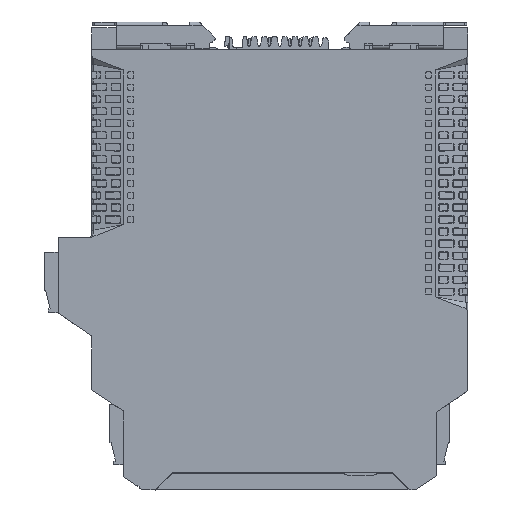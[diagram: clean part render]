
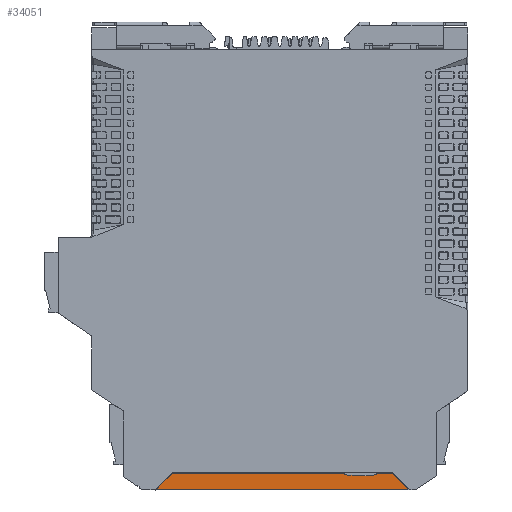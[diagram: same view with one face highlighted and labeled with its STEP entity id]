
A CAD part, front view. The second image highlights one B-rep face of the part: STEP entity #34051.
In plain terms, the highlighted planar face has unit normal (0, -1, -0.009).
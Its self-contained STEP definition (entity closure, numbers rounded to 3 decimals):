
#28938=CARTESIAN_POINT('',(83.309,-0.16,-110.321));
#28939=VERTEX_POINT('',#28938);
#28946=CARTESIAN_POINT('',(87.08,-0.127,-114.092));
#28947=VERTEX_POINT('',#28946);
#28948=CARTESIAN_POINT('',(83.309,-0.16,-110.321));
#28949=DIRECTION('',(0.707,0.006,-0.707));
#28950=VECTOR('',#28949,5.333);
#28951=LINE('',#28948,#28950);
#28952=EDGE_CURVE('',#28939,#28947,#28951,.T.);
#28985=CARTESIAN_POINT('',(79.309,-0.16,-110.321));
#28986=VERTEX_POINT('',#28985);
#28993=CARTESIAN_POINT('',(79.309,-0.16,-110.321));
#28994=DIRECTION('',(1.0,0.0,0.0));
#28995=VECTOR('',#28994,4.);
#28996=LINE('',#28993,#28995);
#28997=EDGE_CURVE('',#28986,#28939,#28996,.T.);
#29009=CARTESIAN_POINT('',(71.309,-0.16,-110.321));
#29010=VERTEX_POINT('',#29009);
#29025=CARTESIAN_POINT('',(28.429,-0.16,-110.321));
#29026=VERTEX_POINT('',#29025);
#29033=CARTESIAN_POINT('',(28.429,-0.16,-110.321));
#29034=DIRECTION('',(1.0,0.0,0.0));
#29035=VECTOR('',#29034,42.88);
#29036=LINE('',#29033,#29035);
#29037=EDGE_CURVE('',#29026,#29010,#29036,.T.);
#29144=CARTESIAN_POINT('',(24.702,-0.127,-114.049));
#29145=VERTEX_POINT('',#29144);
#29152=CARTESIAN_POINT('',(24.702,-0.127,-114.049));
#29153=DIRECTION('',(0.707,-0.006,0.707));
#29154=VECTOR('',#29153,5.272);
#29155=LINE('',#29152,#29154);
#29156=EDGE_CURVE('',#29145,#29026,#29155,.T.);
#29190=CARTESIAN_POINT('',(24.644,-0.126,-114.176));
#29191=VERTEX_POINT('',#29190);
#29198=CARTESIAN_POINT('',(24.843,-0.126,-114.19));
#29199=DIRECTION('',(0.,1.,0.009));
#29200=DIRECTION('',(-0.707,-0.006,0.707));
#29201=AXIS2_PLACEMENT_3D('',#29198,#29199,#29200);
#29202=CIRCLE('',#29201,0.2);
#29203=EDGE_CURVE('',#29191,#29145,#29202,.T.);
#29222=CARTESIAN_POINT('',(24.619,-0.123,-114.521));
#29223=VERTEX_POINT('',#29222);
#29230=CARTESIAN_POINT('',(24.644,-0.126,-114.176));
#29231=DIRECTION('',(-0.07,0.009,-0.998));
#29232=VECTOR('',#29231,0.346);
#29233=LINE('',#29230,#29232);
#29234=EDGE_CURVE('',#29191,#29223,#29233,.T.);
#33794=CARTESIAN_POINT('',(87.08,-0.123,-114.521));
#33795=VERTEX_POINT('',#33794);
#33802=CARTESIAN_POINT('',(87.08,-0.123,-114.521));
#33803=DIRECTION('',(-1.0,0.0,0.0));
#33804=VECTOR('',#33803,62.46);
#33805=LINE('',#33802,#33804);
#33806=EDGE_CURVE('',#33795,#29223,#33805,.T.);
#34008=CARTESIAN_POINT('',(23.783,-0.16,-110.321));
#34009=DIRECTION('',(0.0,1.,0.009));
#34010=DIRECTION('',(0.0,-0.009,1.));
#34011=AXIS2_PLACEMENT_3D('',#34008,#34009,#34010);
#34012=PLANE('',#34011);
#34013=ORIENTED_EDGE('',*,*,#29234,.T.);
#34014=ORIENTED_EDGE('',*,*,#33806,.F.);
#34015=CARTESIAN_POINT('',(87.08,-0.127,-114.092));
#34016=DIRECTION('',(0.0,0.009,-1.));
#34017=VECTOR('',#34016,0.429);
#34018=LINE('',#34015,#34017);
#34019=EDGE_CURVE('',#28947,#33795,#34018,.T.);
#34020=ORIENTED_EDGE('',*,*,#34019,.F.);
#34021=ORIENTED_EDGE('',*,*,#28952,.F.);
#34022=ORIENTED_EDGE('',*,*,#28997,.F.);
#34023=CARTESIAN_POINT('',(79.309,-0.157,-110.721));
#34024=VERTEX_POINT('',#34023);
#34025=CARTESIAN_POINT('',(79.309,-0.157,-110.721));
#34026=DIRECTION('',(0.0,-0.009,1.));
#34027=VECTOR('',#34026,0.4);
#34028=LINE('',#34025,#34027);
#34029=EDGE_CURVE('',#34024,#28986,#34028,.T.);
#34030=ORIENTED_EDGE('',*,*,#34029,.F.);
#34031=CARTESIAN_POINT('',(71.309,-0.157,-110.721));
#34032=VERTEX_POINT('',#34031);
#34033=CARTESIAN_POINT('',(75.309,-0.388,-84.207));
#34034=DIRECTION('',(0.,-1.,-0.009));
#34035=DIRECTION('',(0.149,0.009,-0.989));
#34036=AXIS2_PLACEMENT_3D('',#34033,#34034,#34035);
#34037=CIRCLE('',#34036,26.816);
#34038=EDGE_CURVE('',#34032,#34024,#34037,.T.);
#34039=ORIENTED_EDGE('',*,*,#34038,.F.);
#34040=CARTESIAN_POINT('',(71.309,-0.16,-110.321));
#34041=DIRECTION('',(0.0,0.009,-1.));
#34042=VECTOR('',#34041,0.4);
#34043=LINE('',#34040,#34042);
#34044=EDGE_CURVE('',#29010,#34032,#34043,.T.);
#34045=ORIENTED_EDGE('',*,*,#34044,.F.);
#34046=ORIENTED_EDGE('',*,*,#29037,.F.);
#34047=ORIENTED_EDGE('',*,*,#29156,.F.);
#34048=ORIENTED_EDGE('',*,*,#29203,.F.);
#34049=EDGE_LOOP('',(#34013,#34014,#34020,#34021,#34022,#34030,#34039,#34045,#34046,#34047,#34048));
#34050=FACE_OUTER_BOUND('',#34049,.T.);
#34051=ADVANCED_FACE('',(#34050),#34012,.F.);
